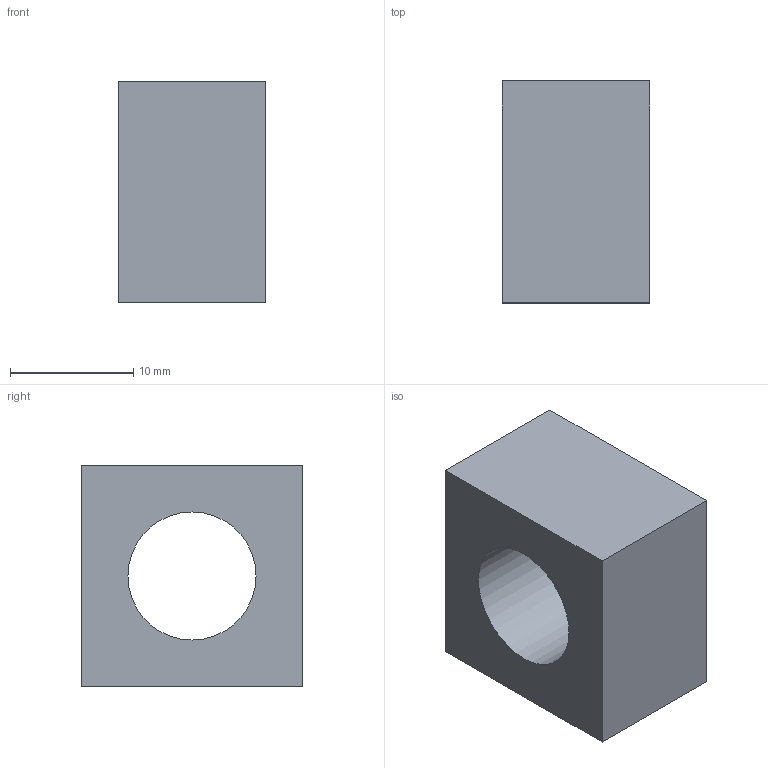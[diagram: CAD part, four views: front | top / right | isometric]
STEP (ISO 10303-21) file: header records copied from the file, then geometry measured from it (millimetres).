
FILE_DESCRIPTION(('Open CASCADE Model'),'2;1');
FILE_NAME('Open CASCADE Shape Model','2026-10-08T14:17:54',('Author'),( 'Open CASCADE'),'Open CASCADE STEP processor 7.9','Open CASCADE 7.9' ,'Unknown');
FILE_SCHEMA(('AUTOMOTIVE_DESIGN { 1 0 10303 214 1 1 1 1 }'));
Length unit declared in the file: millimetre
Products named in the file (1): Open CASCADE STEP translator 7.9 15
Bounding box: 12 x 18 x 18 mm (x, y, z)
Volume: 2868.6 mm3; surface area: 1734.2 mm2
Topology: 1 solids, 1 shells, 7 faces, 15 edges, 10 vertices
Faces by surface type: plane 6, cylinder 1
Full cylindrical faces by diameter (mm): 10.4 x1
Entity records: 406 total; most frequent: CARTESIAN_POINT 75, DIRECTION 61, LINE 41, VECTOR 41, ORIENTED_EDGE 30, PCURVE 30, DEFINITIONAL_REPRESENTATION 30, EDGE_CURVE 15
